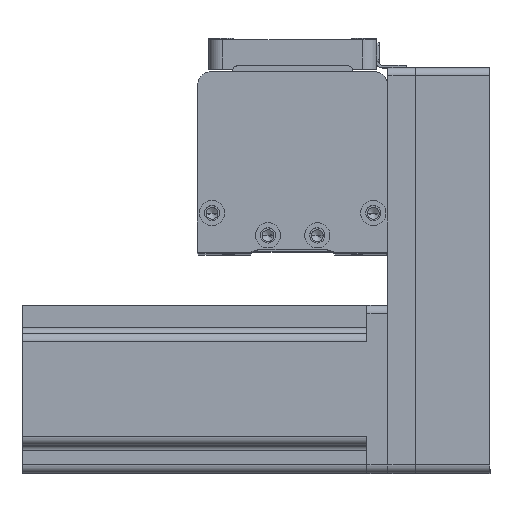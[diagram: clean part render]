
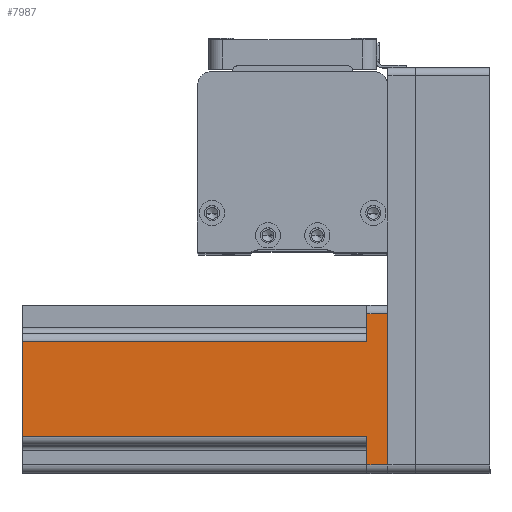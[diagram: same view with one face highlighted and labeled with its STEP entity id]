
A CAD part, top view. The second image highlights one B-rep face of the part: STEP entity #7987.
In plain terms, the highlighted planar face has unit normal (0, 0, 1) as drawn and (0, 1, 0) by its records, which use the part's own axes.
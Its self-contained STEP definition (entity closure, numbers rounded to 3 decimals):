
#175 = CARTESIAN_POINT ( 'NONE',  ( 17., 30., 7.5 ) ) ;
#1000 = CARTESIAN_POINT ( 'NONE',  ( 17., 30., 130.7 ) ) ;
#1066 = VECTOR ( 'NONE', #39622, 1000. ) ;
#1320 = ORIENTED_EDGE ( 'NONE', *, *, #9608, .T. ) ;
#1680 = EDGE_CURVE ( 'NONE', #43338, #12886, #2775, .T. ) ;
#2013 = VECTOR ( 'NONE', #41013, 1000. ) ;
#2523 = ORIENTED_EDGE ( 'NONE', *, *, #3154, .T. ) ;
#2627 = PLANE ( 'NONE',  #39922 ) ;
#2758 = CARTESIAN_POINT ( 'NONE',  ( -27., 30., 130.7 ) ) ;
#2775 = LINE ( 'NONE', #2758, #19722 ) ;
#3154 = EDGE_CURVE ( 'NONE', #38979, #35369, #38719, .T. ) ;
#3759 = VERTEX_POINT ( 'NONE', #175 ) ;
#4606 = ORIENTED_EDGE ( 'NONE', *, *, #37753, .F. ) ;
#4638 = VERTEX_POINT ( 'NONE', #1000 ) ;
#5788 = CARTESIAN_POINT ( 'NONE',  ( -17., 30., 130.7 ) ) ;
#5941 = DIRECTION ( 'NONE',  ( 0., 0., 1. ) ) ;
#6332 = CARTESIAN_POINT ( 'NONE',  ( 27., 30., 130.7 ) ) ;
#7987 = ADVANCED_FACE ( 'NONE', ( #12411 ), #2627, .F. ) ;
#9482 = EDGE_LOOP ( 'NONE', ( #28386, #2523, #29642, #20223, #4606, #27710, #1320, #42494 ) ) ;
#9608 = EDGE_CURVE ( 'NONE', #12863, #43338, #23933, .T. ) ;
#9713 = EDGE_CURVE ( 'NONE', #12886, #38979, #20730, .T. ) ;
#10907 = CARTESIAN_POINT ( 'NONE',  ( 27., 30., 7.5 ) ) ;
#10980 = LINE ( 'NONE', #30828, #2013 ) ;
#12411 = FACE_OUTER_BOUND ( 'NONE', #9482, .T. ) ;
#12605 = CARTESIAN_POINT ( 'NONE',  ( -27., 30., 0. ) ) ;
#12863 = VERTEX_POINT ( 'NONE', #27099 ) ;
#12886 = VERTEX_POINT ( 'NONE', #34048 ) ;
#16190 = CARTESIAN_POINT ( 'NONE',  ( 30., 30., 130.7 ) ) ;
#16518 = VECTOR ( 'NONE', #40714, 1000. ) ;
#18560 = CARTESIAN_POINT ( 'NONE',  ( -17., 30., 130.7 ) ) ;
#19333 = CARTESIAN_POINT ( 'NONE',  ( 20., 30., 7.5 ) ) ;
#19637 = DIRECTION ( 'NONE',  ( 1., 0., 0. ) ) ;
#19722 = VECTOR ( 'NONE', #40060, 1000. ) ;
#20223 = ORIENTED_EDGE ( 'NONE', *, *, #25754, .T. ) ;
#20730 = LINE ( 'NONE', #26828, #37717 ) ;
#23933 = LINE ( 'NONE', #43316, #40912 ) ;
#23949 = VERTEX_POINT ( 'NONE', #10907 ) ;
#25196 = VECTOR ( 'NONE', #43663, 1000. ) ;
#25754 = EDGE_CURVE ( 'NONE', #4638, #3759, #34518, .T. ) ;
#26476 = CARTESIAN_POINT ( 'NONE',  ( -17., 30., 7.5 ) ) ;
#26828 = CARTESIAN_POINT ( 'NONE',  ( -20., 30., 7.5 ) ) ;
#27099 = CARTESIAN_POINT ( 'NONE',  ( 27., 30., 0. ) ) ;
#27710 = ORIENTED_EDGE ( 'NONE', *, *, #28314, .T. ) ;
#28314 = EDGE_CURVE ( 'NONE', #23949, #12863, #34224, .T. ) ;
#28386 = ORIENTED_EDGE ( 'NONE', *, *, #9713, .T. ) ;
#28647 = VECTOR ( 'NONE', #5941, 1000. ) ;
#29642 = ORIENTED_EDGE ( 'NONE', *, *, #38514, .F. ) ;
#29828 = DIRECTION ( 'NONE',  ( -1., 0., 0. ) ) ;
#30828 = CARTESIAN_POINT ( 'NONE',  ( 30., 30., 130.7 ) ) ;
#33640 = DIRECTION ( 'NONE',  ( 1., 0., 0. ) ) ;
#34048 = CARTESIAN_POINT ( 'NONE',  ( -27., 30., 7.5 ) ) ;
#34224 = LINE ( 'NONE', #6332, #25196 ) ;
#34518 = LINE ( 'NONE', #37319, #16518 ) ;
#35369 = VERTEX_POINT ( 'NONE', #18560 ) ;
#37132 = LINE ( 'NONE', #19333, #1066 ) ;
#37319 = CARTESIAN_POINT ( 'NONE',  ( 17., 30., 130.7 ) ) ;
#37717 = VECTOR ( 'NONE', #33640, 1000. ) ;
#37753 = EDGE_CURVE ( 'NONE', #23949, #3759, #37132, .T. ) ;
#38514 = EDGE_CURVE ( 'NONE', #4638, #35369, #10980, .T. ) ;
#38719 = LINE ( 'NONE', #5788, #28647 ) ;
#38979 = VERTEX_POINT ( 'NONE', #26476 ) ;
#39622 = DIRECTION ( 'NONE',  ( -1., 0., 0. ) ) ;
#39921 = DIRECTION ( 'NONE',  ( 0., -1., 0. ) ) ;
#39922 = AXIS2_PLACEMENT_3D ( 'NONE', #16190, #39921, #19637 ) ;
#40060 = DIRECTION ( 'NONE',  ( 0., 0., 1. ) ) ;
#40714 = DIRECTION ( 'NONE',  ( 0., 0., -1. ) ) ;
#40912 = VECTOR ( 'NONE', #29828, 1000. ) ;
#41013 = DIRECTION ( 'NONE',  ( -1., 0., 0. ) ) ;
#42494 = ORIENTED_EDGE ( 'NONE', *, *, #1680, .T. ) ;
#43316 = CARTESIAN_POINT ( 'NONE',  ( 30., 30., 0. ) ) ;
#43338 = VERTEX_POINT ( 'NONE', #12605 ) ;
#43663 = DIRECTION ( 'NONE',  ( 0., 0., -1. ) ) ;
